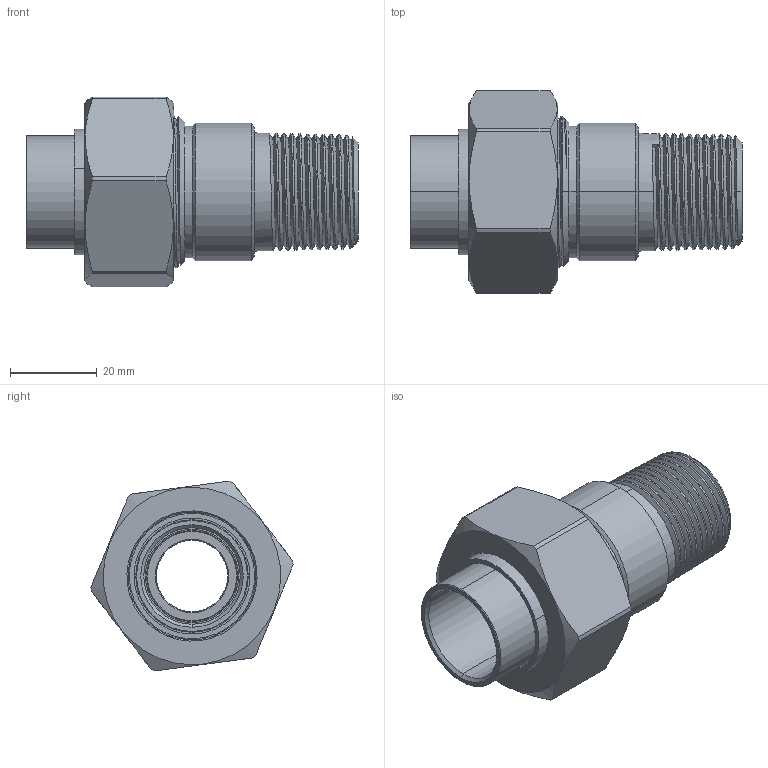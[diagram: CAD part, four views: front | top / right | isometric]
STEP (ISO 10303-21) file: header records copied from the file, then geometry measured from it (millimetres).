
FILE_DESCRIPTION (( 'STEP AP203' ), '1' );
FILE_NAME ('701-304.STEP', '2022-03-21T07:45:42', ( '' ), ( '' ), 'SwSTEP 2.0', 'SolidWorks 2012', '' );
FILE_SCHEMA (( 'CONFIG_CONTROL_DESIGN' ));
Length unit declared in the file: millimetre
Products named in the file (6): 701-304; 肣杶; 呿蹋杶; 菜え; 鞠褒簽; 0.75俋挴諉芛
Assembly tree (5 placements, depth 2):
  701-304
    0.75俋挴諉芛
    鞠褒簽
    菜え
    呿蹋杶
    肣杶
Bounding box: 76.7 x 46.71 x 43.82 mm (x, y, z)
Volume: 43534.9 mm3; surface area: 26225 mm2
Topology: 5 solids, 5 shells, 161 faces, 395 edges, 252 vertices
Faces by surface type: cylinder 66, cone 61, plane 26, bspline 6, torus 2
Entity records: 10702 total; most frequent: CARTESIAN_POINT 6492, ORIENTED_EDGE 790, DIRECTION 712, EDGE_CURVE 395, AXIS2_PLACEMENT_3D 287, VERTEX_POINT 252, EDGE_LOOP 179, ADVANCED_FACE 161
